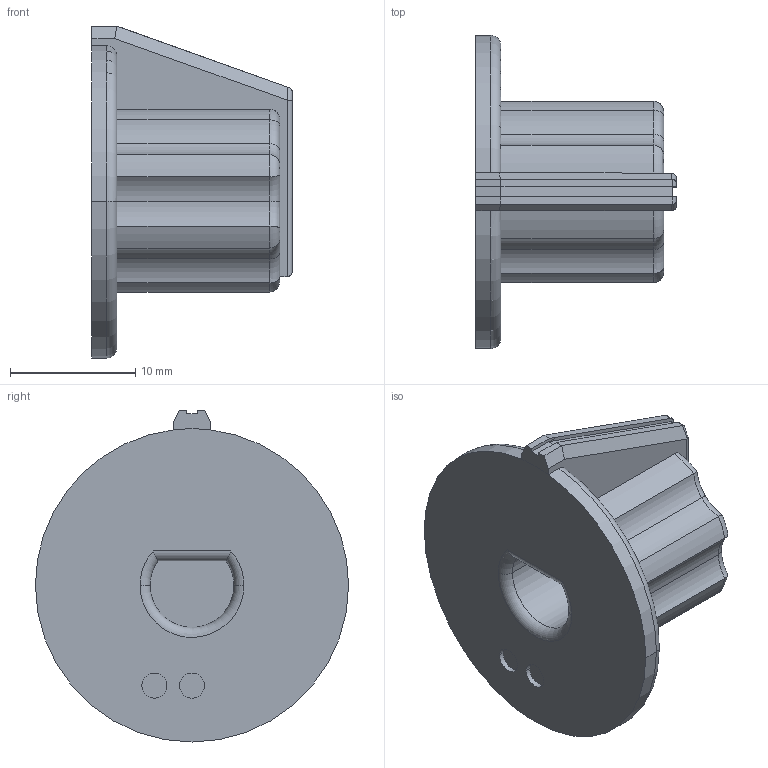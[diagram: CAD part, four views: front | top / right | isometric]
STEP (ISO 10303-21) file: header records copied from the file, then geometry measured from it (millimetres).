
FILE_DESCRIPTION(/* description */ ('AP-214'),/* implementation_level */ '2;1');
FILE_NAME(/* name */ 'knop-gamepad.stp',/* time_stamp */ '2025-10-16T17:41:41+01:00',/* author */ (''),/* organization */ (''),/* preprocessor_version */ '',/* originating_system */ '',/* authorisation */ '');
FILE_SCHEMA(('AUTOMOTIVE_DESIGN'));
Length unit declared in the file: millimetre
Products named in the file (2): knop-gamepad
Assembly tree (1 placements, depth 2):
  knop-gamepad
    (unnamed)
Bounding box: 16 x 25 x 26.5 mm (x, y, z)
Volume: 2867.8 mm3; surface area: 2125.6 mm2
Topology: 1 solids, 1 shells, 108 faces, 261 edges, 157 vertices
Faces by surface type: cylinder 42, plane 38, torus 28
Entity records: 3432 total; most frequent: CARTESIAN_POINT 843, DIRECTION 565, ORIENTED_EDGE 522, EDGE_CURVE 261, AXIS2_PLACEMENT_3D 228, VERTEX_POINT 157, CIRCLE 116, EDGE_LOOP 112
